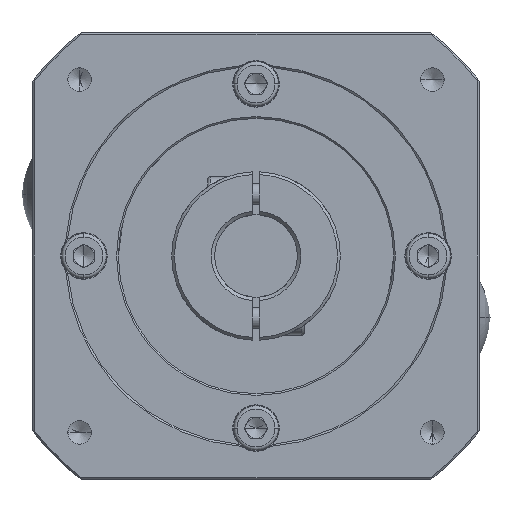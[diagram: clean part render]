
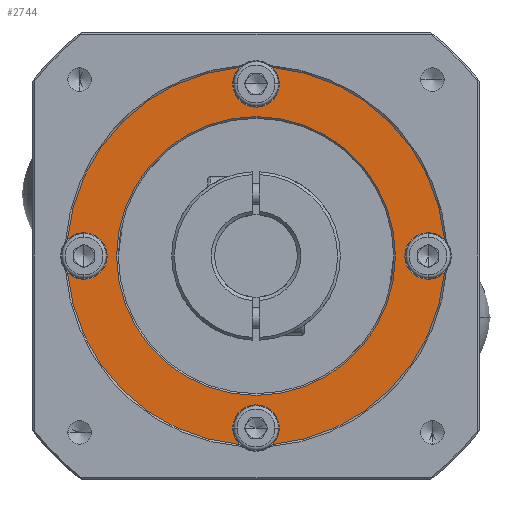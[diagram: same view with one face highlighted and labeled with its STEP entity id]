
A CAD part, left-side view. The second image highlights one B-rep face of the part: STEP entity #2744.
In plain terms, the highlighted planar face has unit normal (-1, 0, 0) as drawn and (0, 0, 1) by its records, which use the part's own axes.
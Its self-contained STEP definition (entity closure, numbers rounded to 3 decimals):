
#22 = CARTESIAN_POINT ( 'NONE',  ( -50., 0., 66. ) ) ;
#28 = AXIS2_PLACEMENT_3D ( 'NONE', #9975, #14663, #4369 ) ;
#84 = CARTESIAN_POINT ( 'NONE',  ( 0., 50., 66. ) ) ;
#99 = CARTESIAN_POINT ( 'NONE',  ( -4.751, -54.794, 66. ) ) ;
#102 = AXIS2_PLACEMENT_3D ( 'NONE', #84, #12506, #11271 ) ;
#254 = CARTESIAN_POINT ( 'NONE',  ( 0., 0., 66. ) ) ;
#290 = ORIENTED_EDGE ( 'NONE', *, *, #8233, .T. ) ;
#307 = CIRCLE ( 'NONE', #2966, 6.75 ) ;
#317 = DIRECTION ( 'NONE',  ( 1., 0., 0. ) ) ;
#435 = AXIS2_PLACEMENT_3D ( 'NONE', #1015, #5608, #1439 ) ;
#501 = CARTESIAN_POINT ( 'NONE',  ( -50., 0., 66. ) ) ;
#504 = CIRCLE ( 'NONE', #13757, 55. ) ;
#599 = CARTESIAN_POINT ( 'NONE',  ( 6.75, 50., 66. ) ) ;
#683 = AXIS2_PLACEMENT_3D ( 'NONE', #22, #14784, #4416 ) ;
#756 = ORIENTED_EDGE ( 'NONE', *, *, #963, .T. ) ;
#861 = CIRCLE ( 'NONE', #8800, 40.5 ) ;
#949 = CARTESIAN_POINT ( 'NONE',  ( -54.794, -4.751, 66. ) ) ;
#963 = EDGE_CURVE ( 'NONE', #14257, #1041, #504, .T. ) ;
#1015 = CARTESIAN_POINT ( 'NONE',  ( 0., 0., 66. ) ) ;
#1035 = EDGE_CURVE ( 'NONE', #14566, #4487, #3399, .T. ) ;
#1041 = VERTEX_POINT ( 'NONE', #12793 ) ;
#1088 = FACE_BOUND ( 'NONE', #2967, .T. ) ;
#1328 = CARTESIAN_POINT ( 'NONE',  ( 4.751, -54.794, 66. ) ) ;
#1439 = DIRECTION ( 'NONE',  ( 1., 0., 0. ) ) ;
#1678 = CARTESIAN_POINT ( 'NONE',  ( 0., -50., 66. ) ) ;
#1903 = CARTESIAN_POINT ( 'NONE',  ( 0., -50., 66. ) ) ;
#2005 = CIRCLE ( 'NONE', #5605, 6.75 ) ;
#2128 = CARTESIAN_POINT ( 'NONE',  ( 0., 0., 66. ) ) ;
#2215 = CIRCLE ( 'NONE', #28, 6.75 ) ;
#2417 = VERTEX_POINT ( 'NONE', #5991 ) ;
#2483 = DIRECTION ( 'NONE',  ( 0., 0., -1. ) ) ;
#2493 = DIRECTION ( 'NONE',  ( 0., 0., 1. ) ) ;
#2578 = VERTEX_POINT ( 'NONE', #4875 ) ;
#2744 = ADVANCED_FACE ( 'NONE', ( #1088, #10323 ), #10109, .T. ) ;
#2966 = AXIS2_PLACEMENT_3D ( 'NONE', #1678, #4854, #9412 ) ;
#2967 = EDGE_LOOP ( 'NONE', ( #3332, #11681 ) ) ;
#2989 = CIRCLE ( 'NONE', #7294, 6.75 ) ;
#3066 = CARTESIAN_POINT ( 'NONE',  ( 0., 0., 66. ) ) ;
#3210 = CARTESIAN_POINT ( 'NONE',  ( -4.751, 54.794, 66. ) ) ;
#3223 = DIRECTION ( 'NONE',  ( 1., 0., 0. ) ) ;
#3332 = ORIENTED_EDGE ( 'NONE', *, *, #4405, .T. ) ;
#3399 = CIRCLE ( 'NONE', #8922, 6.75 ) ;
#3444 = DIRECTION ( 'NONE',  ( 1., 0., 0. ) ) ;
#3666 = VERTEX_POINT ( 'NONE', #10824 ) ;
#3705 = CARTESIAN_POINT ( 'NONE',  ( -6.75, 50., 66. ) ) ;
#3791 = AXIS2_PLACEMENT_3D ( 'NONE', #10359, #2493, #10427 ) ;
#3919 = CARTESIAN_POINT ( 'NONE',  ( 6.75, -50., 66. ) ) ;
#3987 = EDGE_CURVE ( 'NONE', #12116, #14257, #8986, .T. ) ;
#4108 = DIRECTION ( 'NONE',  ( 0., 0., -1. ) ) ;
#4118 = CIRCLE ( 'NONE', #12507, 6.75 ) ;
#4190 = VERTEX_POINT ( 'NONE', #1328 ) ;
#4269 = ORIENTED_EDGE ( 'NONE', *, *, #10203, .T. ) ;
#4308 = CIRCLE ( 'NONE', #683, 6.75 ) ;
#4369 = DIRECTION ( 'NONE',  ( 1., 0., 0. ) ) ;
#4405 = EDGE_CURVE ( 'NONE', #12794, #2417, #6353, .T. ) ;
#4416 = DIRECTION ( 'NONE',  ( 1., 0., 0. ) ) ;
#4487 = VERTEX_POINT ( 'NONE', #3919 ) ;
#4538 = ORIENTED_EDGE ( 'NONE', *, *, #13585, .T. ) ;
#4584 = DIRECTION ( 'NONE',  ( 0., 0., -1. ) ) ;
#4854 = DIRECTION ( 'NONE',  ( 0., 0., -1. ) ) ;
#4875 = CARTESIAN_POINT ( 'NONE',  ( 54.794, 4.751, 66. ) ) ;
#5046 = CIRCLE ( 'NONE', #7926, 6.75 ) ;
#5108 = DIRECTION ( 'NONE',  ( 1., 0., 0. ) ) ;
#5431 = CIRCLE ( 'NONE', #7837, 55. ) ;
#5605 = AXIS2_PLACEMENT_3D ( 'NONE', #501, #10699, #5108 ) ;
#5608 = DIRECTION ( 'NONE',  ( 0., 0., 1. ) ) ;
#5812 = VERTEX_POINT ( 'NONE', #599 ) ;
#5922 = CARTESIAN_POINT ( 'NONE',  ( 0., 0., 66. ) ) ;
#5991 = CARTESIAN_POINT ( 'NONE',  ( -40.5, 0., 66. ) ) ;
#6033 = CARTESIAN_POINT ( 'NONE',  ( 0., 50., 66. ) ) ;
#6061 = ORIENTED_EDGE ( 'NONE', *, *, #10544, .T. ) ;
#6090 = ORIENTED_EDGE ( 'NONE', *, *, #6756, .T. ) ;
#6353 = CIRCLE ( 'NONE', #9004, 40.5 ) ;
#6473 = DIRECTION ( 'NONE',  ( 1., 0., 0. ) ) ;
#6511 = CARTESIAN_POINT ( 'NONE',  ( -43.25, 0., 66. ) ) ;
#6595 = CIRCLE ( 'NONE', #102, 6.75 ) ;
#6608 = EDGE_CURVE ( 'NONE', #2417, #12794, #861, .T. ) ;
#6756 = EDGE_CURVE ( 'NONE', #4190, #7033, #5431, .T. ) ;
#6918 = DIRECTION ( 'NONE',  ( 0., 0., -1. ) ) ;
#7033 = VERTEX_POINT ( 'NONE', #12423 ) ;
#7128 = CARTESIAN_POINT ( 'NONE',  ( 40.5, 0., 66. ) ) ;
#7294 = AXIS2_PLACEMENT_3D ( 'NONE', #14878, #4584, #3444 ) ;
#7450 = ORIENTED_EDGE ( 'NONE', *, *, #9114, .T. ) ;
#7582 = DIRECTION ( 'NONE',  ( 1., 0., 0. ) ) ;
#7694 = VERTEX_POINT ( 'NONE', #6511 ) ;
#7837 = AXIS2_PLACEMENT_3D ( 'NONE', #3066, #11157, #3223 ) ;
#7926 = AXIS2_PLACEMENT_3D ( 'NONE', #10635, #2483, #8287 ) ;
#7934 = VERTEX_POINT ( 'NONE', #99 ) ;
#8059 = EDGE_CURVE ( 'NONE', #4487, #4190, #307, .T. ) ;
#8146 = DIRECTION ( 'NONE',  ( 1., 0., 0. ) ) ;
#8233 = EDGE_CURVE ( 'NONE', #1041, #7694, #2005, .T. ) ;
#8287 = DIRECTION ( 'NONE',  ( 1., 0., 0. ) ) ;
#8325 = DIRECTION ( 'NONE',  ( 0., 0., 1. ) ) ;
#8435 = CIRCLE ( 'NONE', #10553, 55. ) ;
#8555 = EDGE_CURVE ( 'NONE', #7934, #14566, #2989, .T. ) ;
#8684 = DIRECTION ( 'NONE',  ( 1., 0., 0. ) ) ;
#8800 = AXIS2_PLACEMENT_3D ( 'NONE', #12651, #11564, #8146 ) ;
#8815 = EDGE_LOOP ( 'NONE', ( #14745, #14380, #11093, #6090, #11860, #14534, #6061, #4269, #7450, #12540, #756, #290, #4538, #13320 ) ) ;
#8922 = AXIS2_PLACEMENT_3D ( 'NONE', #1903, #12191, #6473 ) ;
#8986 = CIRCLE ( 'NONE', #13311, 6.75 ) ;
#9004 = AXIS2_PLACEMENT_3D ( 'NONE', #5922, #13290, #7582 ) ;
#9114 = EDGE_CURVE ( 'NONE', #5812, #12116, #6595, .T. ) ;
#9412 = DIRECTION ( 'NONE',  ( 1., 0., 0. ) ) ;
#9779 = DIRECTION ( 'NONE',  ( 1., 0., 0. ) ) ;
#9789 = CARTESIAN_POINT ( 'NONE',  ( 50., 0., 66. ) ) ;
#9975 = CARTESIAN_POINT ( 'NONE',  ( 50., 0., 66. ) ) ;
#10109 = PLANE ( 'NONE',  #435 ) ;
#10203 = EDGE_CURVE ( 'NONE', #3666, #5812, #5046, .T. ) ;
#10323 = FACE_OUTER_BOUND ( 'NONE', #8815, .T. ) ;
#10359 = CARTESIAN_POINT ( 'NONE',  ( 0., 0., 66. ) ) ;
#10427 = DIRECTION ( 'NONE',  ( 1., 0., 0. ) ) ;
#10544 = EDGE_CURVE ( 'NONE', #2578, #3666, #8435, .T. ) ;
#10553 = AXIS2_PLACEMENT_3D ( 'NONE', #254, #8325, #14860 ) ;
#10635 = CARTESIAN_POINT ( 'NONE',  ( 0., 50., 66. ) ) ;
#10699 = DIRECTION ( 'NONE',  ( 0., 0., -1. ) ) ;
#10824 = CARTESIAN_POINT ( 'NONE',  ( 4.751, 54.794, 66. ) ) ;
#11093 = ORIENTED_EDGE ( 'NONE', *, *, #8059, .T. ) ;
#11116 = EDGE_CURVE ( 'NONE', #11361, #2578, #2215, .T. ) ;
#11157 = DIRECTION ( 'NONE',  ( 0., 0., 1. ) ) ;
#11271 = DIRECTION ( 'NONE',  ( 1., 0., 0. ) ) ;
#11361 = VERTEX_POINT ( 'NONE', #13358 ) ;
#11564 = DIRECTION ( 'NONE',  ( 0., 0., -1. ) ) ;
#11663 = CARTESIAN_POINT ( 'NONE',  ( -6.75, -50., 66. ) ) ;
#11681 = ORIENTED_EDGE ( 'NONE', *, *, #6608, .T. ) ;
#11860 = ORIENTED_EDGE ( 'NONE', *, *, #14644, .T. ) ;
#12116 = VERTEX_POINT ( 'NONE', #3705 ) ;
#12191 = DIRECTION ( 'NONE',  ( 0., 0., -1. ) ) ;
#12423 = CARTESIAN_POINT ( 'NONE',  ( 54.794, -4.751, 66. ) ) ;
#12506 = DIRECTION ( 'NONE',  ( 0., 0., -1. ) ) ;
#12507 = AXIS2_PLACEMENT_3D ( 'NONE', #9789, #4108, #8684 ) ;
#12540 = ORIENTED_EDGE ( 'NONE', *, *, #3987, .T. ) ;
#12651 = CARTESIAN_POINT ( 'NONE',  ( 0., 0., 66. ) ) ;
#12656 = CIRCLE ( 'NONE', #3791, 55. ) ;
#12793 = CARTESIAN_POINT ( 'NONE',  ( -54.794, 4.751, 66. ) ) ;
#12794 = VERTEX_POINT ( 'NONE', #7128 ) ;
#12806 = EDGE_CURVE ( 'NONE', #14039, #7934, #12656, .T. ) ;
#13290 = DIRECTION ( 'NONE',  ( 0., 0., -1. ) ) ;
#13311 = AXIS2_PLACEMENT_3D ( 'NONE', #6033, #6918, #317 ) ;
#13320 = ORIENTED_EDGE ( 'NONE', *, *, #12806, .T. ) ;
#13358 = CARTESIAN_POINT ( 'NONE',  ( 43.25, 0., 66. ) ) ;
#13585 = EDGE_CURVE ( 'NONE', #7694, #14039, #4308, .T. ) ;
#13757 = AXIS2_PLACEMENT_3D ( 'NONE', #2128, #14603, #9779 ) ;
#14039 = VERTEX_POINT ( 'NONE', #949 ) ;
#14257 = VERTEX_POINT ( 'NONE', #3210 ) ;
#14380 = ORIENTED_EDGE ( 'NONE', *, *, #1035, .T. ) ;
#14534 = ORIENTED_EDGE ( 'NONE', *, *, #11116, .T. ) ;
#14566 = VERTEX_POINT ( 'NONE', #11663 ) ;
#14603 = DIRECTION ( 'NONE',  ( 0., 0., 1. ) ) ;
#14644 = EDGE_CURVE ( 'NONE', #7033, #11361, #4118, .T. ) ;
#14663 = DIRECTION ( 'NONE',  ( 0., 0., -1. ) ) ;
#14745 = ORIENTED_EDGE ( 'NONE', *, *, #8555, .T. ) ;
#14784 = DIRECTION ( 'NONE',  ( 0., 0., -1. ) ) ;
#14860 = DIRECTION ( 'NONE',  ( 1., 0., 0. ) ) ;
#14878 = CARTESIAN_POINT ( 'NONE',  ( 0., -50., 66. ) ) ;
